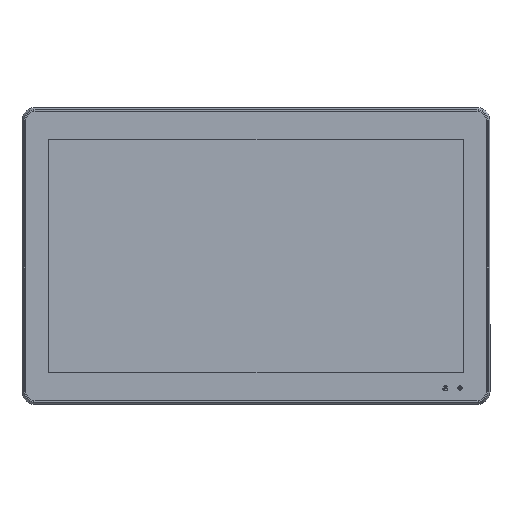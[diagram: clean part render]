
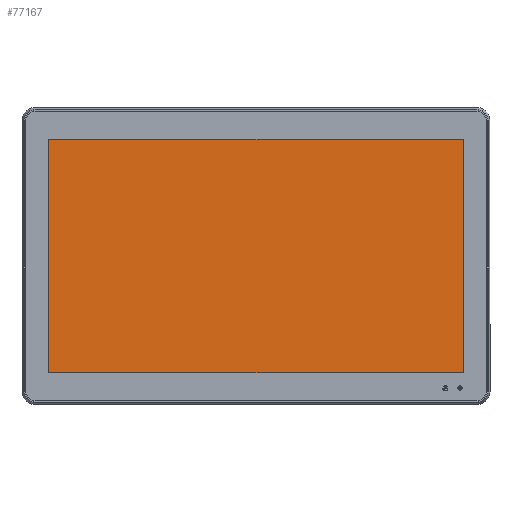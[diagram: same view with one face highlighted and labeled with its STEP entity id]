
A CAD part, top view. The second image highlights one B-rep face of the part: STEP entity #77167.
In plain terms, the highlighted planar face has unit normal (0, 0, 1).
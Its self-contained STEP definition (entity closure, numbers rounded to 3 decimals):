
#7766 = CARTESIAN_POINT ( 'NONE',  ( 172.6, 97.25, 1.99 ) ) ;
#14218 = CARTESIAN_POINT ( 'NONE',  ( -172.6, -97.25, 1.99 ) ) ;
#24802 = CARTESIAN_POINT ( 'NONE',  ( 0., 0., 1.99 ) ) ;
#28722 = VERTEX_POINT ( 'NONE', #222402 ) ;
#33306 = CARTESIAN_POINT ( 'NONE',  ( -172.6, 97.25, 1.99 ) ) ;
#36232 = CARTESIAN_POINT ( 'NONE',  ( 172.6, 97.25, 1.99 ) ) ;
#37381 = DIRECTION ( 'NONE',  ( 1., 0., 0. ) ) ;
#43287 = LINE ( 'NONE', #33306, #191800 ) ;
#46936 = CARTESIAN_POINT ( 'NONE',  ( 172.6, -97.25, 1.99 ) ) ;
#47005 = LINE ( 'NONE', #14218, #282587 ) ;
#55576 = DIRECTION ( 'NONE',  ( 0., -1., 0. ) ) ;
#65385 = ORIENTED_EDGE ( 'NONE', *, *, #238880, .T. ) ;
#70232 = LINE ( 'NONE', #7766, #233224 ) ;
#71388 = DIRECTION ( 'NONE',  ( 0., 0., 1. ) ) ;
#77167 = ADVANCED_FACE ( 'NONE', ( #284099 ), #279823, .T. ) ;
#84152 = ORIENTED_EDGE ( 'NONE', *, *, #283122, .T. ) ;
#98932 = DIRECTION ( 'NONE',  ( 0., 1., 0. ) ) ;
#124444 = EDGE_LOOP ( 'NONE', ( #253608, #84152, #223067, #65385 ) ) ;
#153054 = VECTOR ( 'NONE', #209886, 1000. ) ;
#174793 = LINE ( 'NONE', #186618, #153054 ) ;
#179738 = EDGE_CURVE ( 'NONE', #291731, #228371, #70232, .T. ) ;
#186618 = CARTESIAN_POINT ( 'NONE',  ( -172.6, 97.25, 1.99 ) ) ;
#188039 = CARTESIAN_POINT ( 'NONE',  ( -172.6, 97.25, 1.99 ) ) ;
#191800 = VECTOR ( 'NONE', #55576, 1000. ) ;
#205586 = EDGE_CURVE ( 'NONE', #270438, #28722, #43287, .T. ) ;
#206048 = DIRECTION ( 'NONE',  ( 1., 0., 0. ) ) ;
#209886 = DIRECTION ( 'NONE',  ( -1., 0., 0. ) ) ;
#222402 = CARTESIAN_POINT ( 'NONE',  ( -172.6, -97.25, 1.99 ) ) ;
#223067 = ORIENTED_EDGE ( 'NONE', *, *, #205586, .T. ) ;
#228371 = VERTEX_POINT ( 'NONE', #36232 ) ;
#233221 = AXIS2_PLACEMENT_3D ( 'NONE', #24802, #71388, #206048 ) ;
#233224 = VECTOR ( 'NONE', #98932, 1000. ) ;
#238880 = EDGE_CURVE ( 'NONE', #28722, #291731, #47005, .T. ) ;
#253608 = ORIENTED_EDGE ( 'NONE', *, *, #179738, .T. ) ;
#270438 = VERTEX_POINT ( 'NONE', #188039 ) ;
#279823 = PLANE ( 'NONE',  #233221 ) ;
#282587 = VECTOR ( 'NONE', #37381, 1000. ) ;
#283122 = EDGE_CURVE ( 'NONE', #228371, #270438, #174793, .T. ) ;
#284099 = FACE_OUTER_BOUND ( 'NONE', #124444, .T. ) ;
#291731 = VERTEX_POINT ( 'NONE', #46936 ) ;
